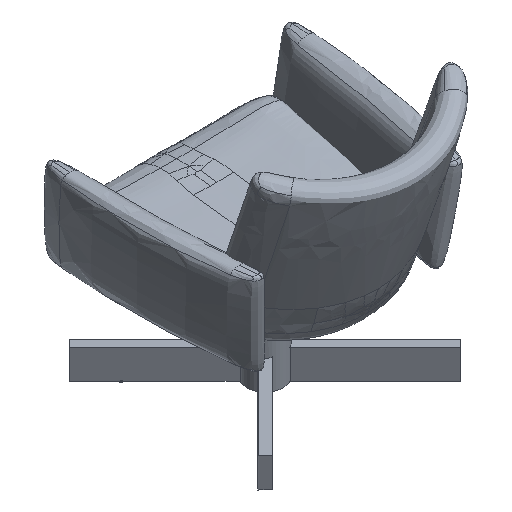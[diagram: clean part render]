
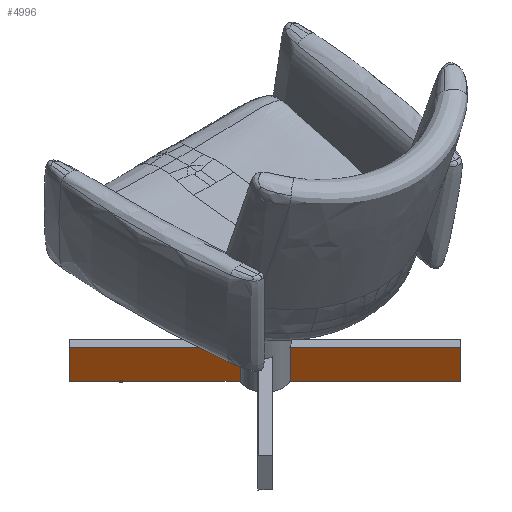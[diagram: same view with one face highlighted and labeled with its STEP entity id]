
A CAD part, isometric view. The second image highlights one B-rep face of the part: STEP entity #4996.
In plain terms, the highlighted planar face has unit normal (-0.707, -0.707, 0).
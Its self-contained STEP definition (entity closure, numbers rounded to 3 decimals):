
#89=PLANE('',#5200);
#372=LINE('',#27765,#549);
#373=LINE('',#27767,#550);
#374=LINE('',#27769,#551);
#375=LINE('',#27771,#552);
#376=LINE('',#27773,#553);
#377=LINE('',#27775,#554);
#378=LINE('',#27777,#555);
#379=LINE('',#27779,#556);
#380=LINE('',#27781,#557);
#381=LINE('',#27783,#558);
#382=LINE('',#27785,#559);
#383=LINE('',#27786,#560);
#549=VECTOR('',#5658,10.);
#550=VECTOR('',#5659,10.);
#551=VECTOR('',#5660,10.);
#552=VECTOR('',#5661,10.);
#553=VECTOR('',#5662,10.);
#554=VECTOR('',#5663,10.);
#555=VECTOR('',#5664,10.);
#556=VECTOR('',#5665,10.);
#557=VECTOR('',#5666,10.);
#558=VECTOR('',#5667,10.);
#559=VECTOR('',#5668,10.);
#560=VECTOR('',#5669,10.);
#860=FACE_OUTER_BOUND('',#1158,.T.);
#1158=EDGE_LOOP('',(#4361,#4362,#4363,#4364,#4365,#4366,#4367,#4368,#4369,
#4370,#4371,#4372));
#2181=VERTEX_POINT('',#27763);
#2182=VERTEX_POINT('',#27764);
#2183=VERTEX_POINT('',#27766);
#2184=VERTEX_POINT('',#27768);
#2185=VERTEX_POINT('',#27770);
#2186=VERTEX_POINT('',#27772);
#2187=VERTEX_POINT('',#27774);
#2188=VERTEX_POINT('',#27776);
#2189=VERTEX_POINT('',#27778);
#2190=VERTEX_POINT('',#27780);
#2191=VERTEX_POINT('',#27782);
#2192=VERTEX_POINT('',#27784);
#2922=EDGE_CURVE('',#2181,#2182,#372,.T.);
#2923=EDGE_CURVE('',#2183,#2181,#373,.T.);
#2924=EDGE_CURVE('',#2184,#2183,#374,.T.);
#2925=EDGE_CURVE('',#2185,#2184,#375,.T.);
#2926=EDGE_CURVE('',#2185,#2186,#376,.T.);
#2927=EDGE_CURVE('',#2186,#2187,#377,.T.);
#2928=EDGE_CURVE('',#2187,#2188,#378,.T.);
#2929=EDGE_CURVE('',#2188,#2189,#379,.T.);
#2930=EDGE_CURVE('',#2189,#2190,#380,.T.);
#2931=EDGE_CURVE('',#2190,#2191,#381,.T.);
#2932=EDGE_CURVE('',#2191,#2192,#382,.T.);
#2933=EDGE_CURVE('',#2182,#2192,#383,.T.);
#4361=ORIENTED_EDGE('',*,*,#2922,.F.);
#4362=ORIENTED_EDGE('',*,*,#2923,.F.);
#4363=ORIENTED_EDGE('',*,*,#2924,.F.);
#4364=ORIENTED_EDGE('',*,*,#2925,.F.);
#4365=ORIENTED_EDGE('',*,*,#2926,.T.);
#4366=ORIENTED_EDGE('',*,*,#2927,.T.);
#4367=ORIENTED_EDGE('',*,*,#2928,.T.);
#4368=ORIENTED_EDGE('',*,*,#2929,.T.);
#4369=ORIENTED_EDGE('',*,*,#2930,.T.);
#4370=ORIENTED_EDGE('',*,*,#2931,.T.);
#4371=ORIENTED_EDGE('',*,*,#2932,.T.);
#4372=ORIENTED_EDGE('',*,*,#2933,.F.);
#4996=ADVANCED_FACE('',(#860),#89,.T.);
#5200=AXIS2_PLACEMENT_3D('',#27762,#5656,#5657);
#5656=DIRECTION('center_axis',(-0.707,-0.707,0.));
#5657=DIRECTION('ref_axis',(0.,0.,
1.));
#5658=DIRECTION('',(0.,0.,1.));
#5659=DIRECTION('',(-0.707,0.707,0.));
#5660=DIRECTION('',(0.,0.,-1.));
#5661=DIRECTION('',(0.707,-0.707,0.));
#5662=DIRECTION('',(0.,0.,-1.));
#5663=DIRECTION('',(-0.707,0.707,0.));
#5664=DIRECTION('',(0.,0.,-1.));
#5665=DIRECTION('',(-0.707,0.707,0.));
#5666=DIRECTION('',(0.,0.,1.));
#5667=DIRECTION('',(-0.707,0.707,0.));
#5668=DIRECTION('',(0.,0.,1.));
#5669=DIRECTION('',(0.707,-0.707,0.));
#27762=CARTESIAN_POINT('Origin',(258.801,-137.488,-141.112));
#27763=CARTESIAN_POINT('',(-275.065,396.378,-141.112));
#27764=CARTESIAN_POINT('',(-275.065,396.378,-61.612));
#27765=CARTESIAN_POINT('',(-275.065,396.378,-121.112));
#27766=CARTESIAN_POINT('',(255.266,-133.952,-141.112));
#27767=CARTESIAN_POINT('',(258.801,-137.488,-141.112));
#27768=CARTESIAN_POINT('',(255.266,-133.952,-61.612));
#27769=CARTESIAN_POINT('',(255.266,-133.952,-121.112));
#27770=CARTESIAN_POINT('',(5.118,116.196,-61.612));
#27771=CARTESIAN_POINT('',(258.801,-137.488,-61.612));
#27772=CARTESIAN_POINT('',(5.118,116.196,-71.112));
#27773=CARTESIAN_POINT('',(5.118,116.196,-61.112));
#27774=CARTESIAN_POINT('',(0.,121.313,-71.112));
#27775=CARTESIAN_POINT('',(124.59,-3.276,-71.112));
#27776=CARTESIAN_POINT('',(0.,121.313,-101.112));
#27777=CARTESIAN_POINT('',(0.,121.313,-101.112));
#27778=CARTESIAN_POINT('',(-19.799,141.112,-101.112));
#27779=CARTESIAN_POINT('',(119.501,1.812,-101.112));
#27780=CARTESIAN_POINT('',(-19.799,141.112,-71.112));
#27781=CARTESIAN_POINT('',(-19.799,141.112,-141.112));
#27782=CARTESIAN_POINT('',(-24.361,145.674,-71.112));
#27783=CARTESIAN_POINT('',(124.59,-3.276,-71.112));
#27784=CARTESIAN_POINT('',(-24.361,145.674,-61.612));
#27785=CARTESIAN_POINT('',(-24.361,145.674,-61.112));
#27786=CARTESIAN_POINT('',(258.801,-137.488,-61.612));
